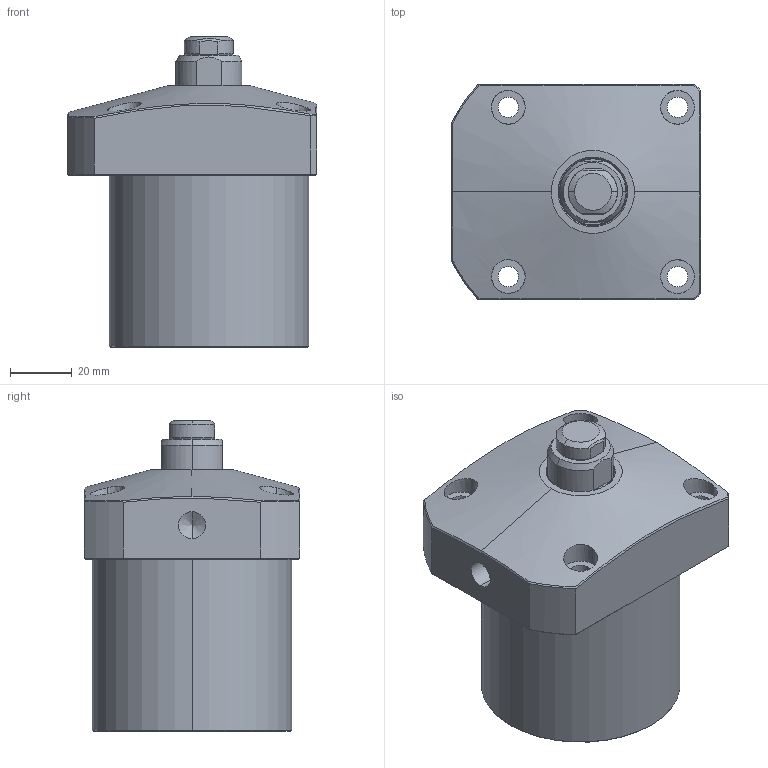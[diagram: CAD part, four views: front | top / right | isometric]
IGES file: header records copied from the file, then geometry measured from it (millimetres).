
Start section: SolidWorks IGES file using analytic representation for surfaces
Global section: file name: E:\FLANGE-WORK-SUPPORT-IGS MODEL\FW10-0654.IGS; native system: SolidWorks 2019; preprocessor: SolidWorks 2019; author: ADMIN; date: 200807.094328; units: millimetre
Bounding box: 81 x 70 x 101 mm (x, y, z)
Volume: 319617 mm3; surface area: 39485 mm2
Topology: 3 solids, 3 shells, 118 faces, 272 edges, 168 vertices
Faces by surface type: revolution 74, plane 36, bspline 8
